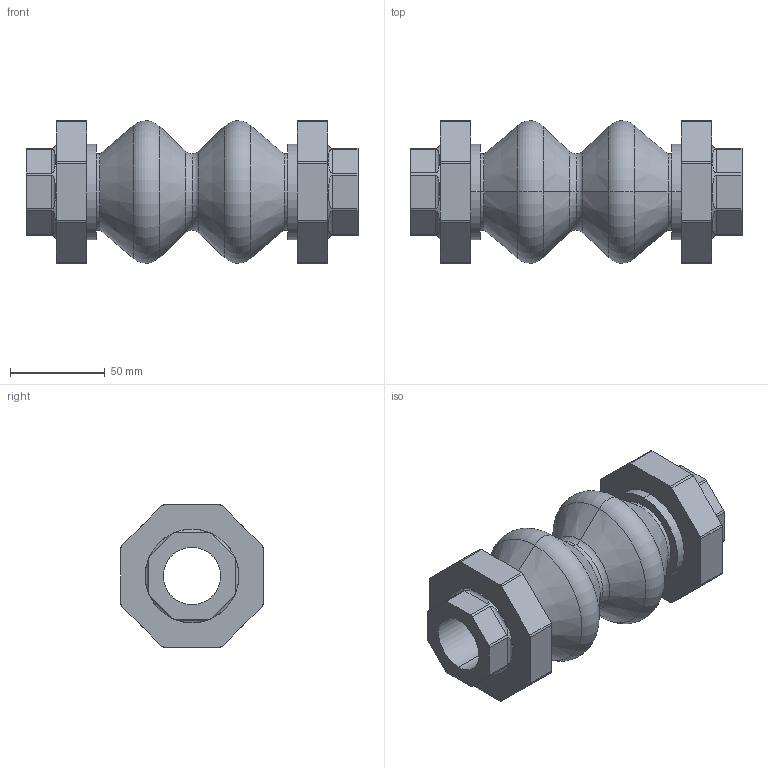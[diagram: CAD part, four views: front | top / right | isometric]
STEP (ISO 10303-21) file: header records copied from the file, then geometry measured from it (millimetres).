
FILE_DESCRIPTION (( 'STEP AP203' ), '1' );
FILE_NAME ('T8_DN025.STEP', '2012-10-31T13:29:17', ( 'luca.saino' ), ( 'Hewlett-Packard Company' ), 'SwSTEP 2.0', 'SolidWorks 2012', '' );
FILE_SCHEMA (( 'CONFIG_CONTROL_DESIGN' ));
Length unit declared in the file: millimetre
Products named in the file (1): T8_DN025
Bounding box: 175 x 75 x 75 mm (x, y, z)
Volume: 275864.6 mm3; surface area: 77395.5 mm2
Topology: 1 solids, 1 shells, 124 faces, 308 edges, 192 vertices
Faces by surface type: cylinder 48, plane 40, torus 20, cone 16
Entity records: 4385 total; most frequent: CARTESIAN_POINT 1289, DIRECTION 666, ORIENTED_EDGE 616, EDGE_CURVE 308, AXIS2_PLACEMENT_3D 253, VERTEX_POINT 192, LINE 160, VECTOR 160
